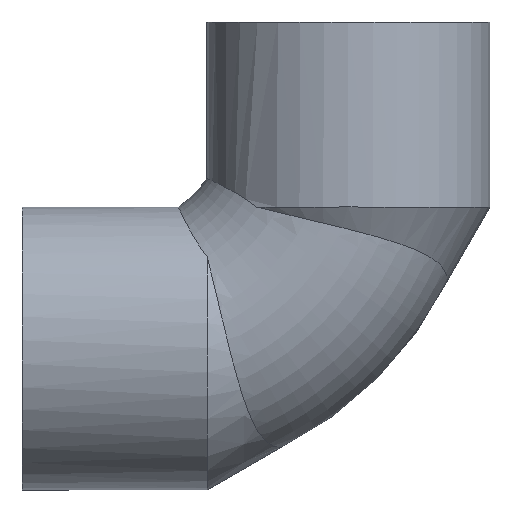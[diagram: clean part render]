
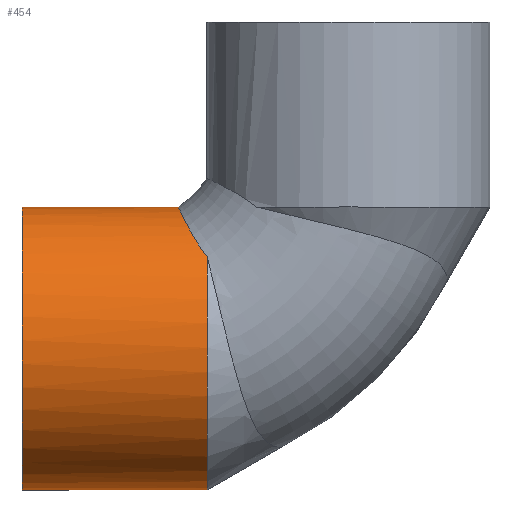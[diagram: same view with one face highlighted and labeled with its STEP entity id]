
A CAD part, top view. The second image highlights one B-rep face of the part: STEP entity #454.
In plain terms, the highlighted cylindrical face has radius 9.8 mm (diameter 19.6 mm), a partial arc.
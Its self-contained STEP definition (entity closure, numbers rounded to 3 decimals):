
#219=CARTESIAN_POINT('',(4.22,-6.2,0.));
#220=VERTEX_POINT('',#219);
#358=CARTESIAN_POINT('',(6.214,-25.8,0.));
#359=VERTEX_POINT('',#358);
#366=CARTESIAN_POINT('',(6.214,-9.664,7.476));
#367=VERTEX_POINT('',#366);
#391=CARTESIAN_POINT('',(6.214,-16.,0.0));
#392=DIRECTION('',(-1.0,0.0,0.0));
#393=DIRECTION('',(0.0,-1.0,0.0));
#394=AXIS2_PLACEMENT_3D('',#391,#392,#393);
#395=CIRCLE('',#394,9.8);
#396=EDGE_CURVE('',#359,#367,#395,.T.);
#401=CARTESIAN_POINT('',(-0.193,-16.,0.0));
#402=DIRECTION('',(-1.0,0.,0.0));
#403=DIRECTION('',(0.0,-1.0,0.0));
#404=AXIS2_PLACEMENT_3D('',#401,#402,#403);
#405=CYLINDRICAL_SURFACE('',#404,9.8);
#406=CARTESIAN_POINT('',(-6.6,-25.8,0.));
#407=VERTEX_POINT('',#406);
#408=CARTESIAN_POINT('',(6.214,-25.8,0.));
#409=DIRECTION('',(-1.0,0.0,0.0));
#410=VECTOR('',#409,12.814);
#411=LINE('',#408,#410);
#412=EDGE_CURVE('',#359,#407,#411,.T.);
#413=ORIENTED_EDGE('',*,*,#412,.F.);
#414=ORIENTED_EDGE('',*,*,#396,.T.);
#415=CARTESIAN_POINT('',(4.22,-6.2,0.));
#416=CARTESIAN_POINT('',(4.22,-6.2,0.729));
#417=CARTESIAN_POINT('',(4.258,-6.281,1.454));
#418=CARTESIAN_POINT('',(4.452,-6.69,3.263));
#419=CARTESIAN_POINT('',(4.658,-7.128,4.303));
#420=CARTESIAN_POINT('',(5.158,-8.06,5.782));
#421=CARTESIAN_POINT('',(5.385,-8.462,6.293));
#422=CARTESIAN_POINT('',(5.828,-9.143,7.011));
#423=CARTESIAN_POINT('',(6.01,-9.403,7.255));
#424=CARTESIAN_POINT('',(6.214,-9.664,7.476));
#425=B_SPLINE_CURVE_WITH_KNOTS('',3,(#415,#416,#417,#418,#419,#420,#421,#422,#423,#424),.UNSPECIFIED.,.F.,.U.,(4,2,2,2,4),(-0.879,-0.662,-0.325,-0.12,0.0),.UNSPECIFIED.);
#426=EDGE_CURVE('',#220,#367,#425,.T.);
#427=ORIENTED_EDGE('',*,*,#426,.F.);
#428=CARTESIAN_POINT('',(-6.6,-6.2,0.));
#429=VERTEX_POINT('',#428);
#430=CARTESIAN_POINT('',(-6.6,-6.2,0.));
#431=DIRECTION('',(1.0,0.0,0.0));
#432=VECTOR('',#431,10.82);
#433=LINE('',#430,#432);
#434=EDGE_CURVE('',#429,#220,#433,.T.);
#435=ORIENTED_EDGE('',*,*,#434,.F.);
#436=CARTESIAN_POINT('',(-6.6,-22.93,6.93));
#437=VERTEX_POINT('',#436);
#438=CARTESIAN_POINT('',(-6.6,-16.,0.0));
#439=DIRECTION('',(-1.0,0.0,0.0));
#440=DIRECTION('',(0.0,-1.0,0.0));
#441=AXIS2_PLACEMENT_3D('',#438,#439,#440);
#442=CIRCLE('',#441,9.8);
#443=EDGE_CURVE('',#437,#429,#442,.T.);
#444=ORIENTED_EDGE('',*,*,#443,.F.);
#445=CARTESIAN_POINT('',(-6.6,-16.,0.0));
#446=DIRECTION('',(-1.0,0.0,0.0));
#447=DIRECTION('',(0.0,-1.0,0.0));
#448=AXIS2_PLACEMENT_3D('',#445,#446,#447);
#449=CIRCLE('',#448,9.8);
#450=EDGE_CURVE('',#407,#437,#449,.T.);
#451=ORIENTED_EDGE('',*,*,#450,.F.);
#452=EDGE_LOOP('',(#413,#414,#427,#435,#444,#451));
#453=FACE_OUTER_BOUND('',#452,.T.);
#454=ADVANCED_FACE('',(#453),#405,.T.);
